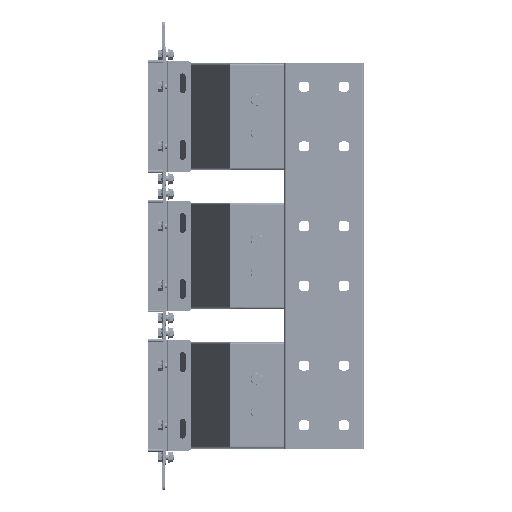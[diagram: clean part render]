
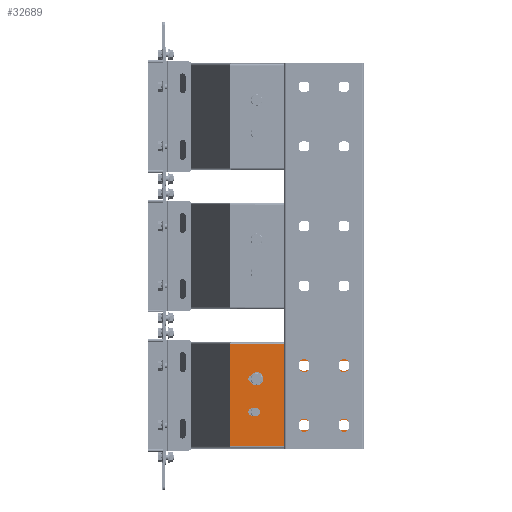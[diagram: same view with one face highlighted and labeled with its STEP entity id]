
A CAD part, front view. The second image highlights one B-rep face of the part: STEP entity #32689.
In plain terms, the highlighted planar face has unit normal (0, -1, 0).
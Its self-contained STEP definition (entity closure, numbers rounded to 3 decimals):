
#32445=AXIS2_PLACEMENT_3D('Circle Axis2P3D',#32443,#32444,$) ;
#32465=AXIS2_PLACEMENT_3D('Plane Axis2P3D',#32462,#32463,#32464) ;
#32503=AXIS2_PLACEMENT_3D('Circle Axis2P3D',#32501,#32502,$) ;
#32521=AXIS2_PLACEMENT_3D('Circle Axis2P3D',#32519,#32520,$) ;
#32537=AXIS2_PLACEMENT_3D('Circle Axis2P3D',#32535,#32536,$) ;
#32555=AXIS2_PLACEMENT_3D('Circle Axis2P3D',#32553,#32554,$) ;
#32571=AXIS2_PLACEMENT_3D('Circle Axis2P3D',#32569,#32570,$) ;
#32598=AXIS2_PLACEMENT_3D('Circle Axis2P3D',#32596,#32597,$) ;
#32612=AXIS2_PLACEMENT_3D('Circle Axis2P3D',#32610,#32611,$) ;
#32623=AXIS2_PLACEMENT_3D('Circle Axis2P3D',#32621,#32622,$) ;
#32639=AXIS2_PLACEMENT_3D('Circle Axis2P3D',#32637,#32638,$) ;
#32657=AXIS2_PLACEMENT_3D('Circle Axis2P3D',#32655,#32656,$) ;
#32673=AXIS2_PLACEMENT_3D('Circle Axis2P3D',#32671,#32672,$) ;
#32409=CARTESIAN_POINT('Vertex',(212.5,-218.15,52.5)) ;
#32412=CARTESIAN_POINT('Line Origine',(210.,-218.15,52.5)) ;
#32416=CARTESIAN_POINT('Vertex',(207.5,-218.15,52.5)) ;
#32443=CARTESIAN_POINT('Axis2P3D Location',(207.5,-218.15,45.)) ;
#32447=CARTESIAN_POINT('Vertex',(207.5,-218.15,37.5)) ;
#32462=CARTESIAN_POINT('Axis2P3D Location',(300.,-218.15,-76.85)) ;
#32467=CARTESIAN_POINT('Line Origine',(198.973,-218.15,-76.85)) ;
#32471=CARTESIAN_POINT('Vertex',(300.,-218.15,-76.85)) ;
#32473=CARTESIAN_POINT('Vertex',(97.945,-218.15,-76.85)) ;
#32476=CARTESIAN_POINT('Line Origine',(300.,-218.15,0.)) ;
#32480=CARTESIAN_POINT('Vertex',(300.,-218.15,76.85)) ;
#32483=CARTESIAN_POINT('Line Origine',(198.973,-218.15,76.85)) ;
#32487=CARTESIAN_POINT('Vertex',(97.945,-218.15,76.85)) ;
#32490=CARTESIAN_POINT('Line Origine',(97.945,-218.15,0.)) ;
#32501=CARTESIAN_POINT('Axis2P3D Location',(212.5,-218.15,45.)) ;
#32505=CARTESIAN_POINT('Vertex',(212.5,-218.15,37.5)) ;
#32508=CARTESIAN_POINT('Line Origine',(210.,-218.15,37.5)) ;
#32519=CARTESIAN_POINT('Axis2P3D Location',(272.5,-218.15,45.)) ;
#32523=CARTESIAN_POINT('Vertex',(272.5,-218.15,37.5)) ;
#32525=CARTESIAN_POINT('Vertex',(272.5,-218.15,52.5)) ;
#32528=CARTESIAN_POINT('Line Origine',(270.,-218.15,37.5)) ;
#32532=CARTESIAN_POINT('Vertex',(267.5,-218.15,37.5)) ;
#32535=CARTESIAN_POINT('Axis2P3D Location',(267.5,-218.15,45.)) ;
#32539=CARTESIAN_POINT('Vertex',(267.5,-218.15,52.5)) ;
#32542=CARTESIAN_POINT('Line Origine',(270.,-218.15,52.5)) ;
#32553=CARTESIAN_POINT('Axis2P3D Location',(207.5,-218.15,-45.)) ;
#32557=CARTESIAN_POINT('Vertex',(207.5,-218.15,-37.5)) ;
#32559=CARTESIAN_POINT('Vertex',(207.5,-218.15,-52.5)) ;
#32562=CARTESIAN_POINT('Line Origine',(210.,-218.15,-37.5)) ;
#32566=CARTESIAN_POINT('Vertex',(212.5,-218.15,-37.5)) ;
#32569=CARTESIAN_POINT('Axis2P3D Location',(212.5,-218.15,-45.)) ;
#32573=CARTESIAN_POINT('Vertex',(212.5,-218.15,-52.5)) ;
#32576=CARTESIAN_POINT('Line Origine',(210.,-218.15,-52.5)) ;
#32587=CARTESIAN_POINT('Line Origine',(270.,-218.15,-37.5)) ;
#32591=CARTESIAN_POINT('Vertex',(272.5,-218.15,-37.5)) ;
#32593=CARTESIAN_POINT('Vertex',(267.5,-218.15,-37.5)) ;
#32596=CARTESIAN_POINT('Axis2P3D Location',(272.5,-218.15,-45.)) ;
#32600=CARTESIAN_POINT('Vertex',(272.5,-218.15,-52.5)) ;
#32603=CARTESIAN_POINT('Line Origine',(270.,-218.15,-52.5)) ;
#32607=CARTESIAN_POINT('Vertex',(267.5,-218.15,-52.5)) ;
#32610=CARTESIAN_POINT('Axis2P3D Location',(267.5,-218.15,-45.)) ;
#32621=CARTESIAN_POINT('Axis2P3D Location',(138.5,-218.15,25.)) ;
#32625=CARTESIAN_POINT('Vertex',(138.5,-218.15,19.5)) ;
#32627=CARTESIAN_POINT('Vertex',(138.5,-218.15,30.5)) ;
#32630=CARTESIAN_POINT('Line Origine',(135.,-218.15,19.5)) ;
#32634=CARTESIAN_POINT('Vertex',(131.5,-218.15,19.5)) ;
#32637=CARTESIAN_POINT('Axis2P3D Location',(131.5,-218.15,25.)) ;
#32641=CARTESIAN_POINT('Vertex',(131.5,-218.15,30.5)) ;
#32644=CARTESIAN_POINT('Line Origine',(135.,-218.15,30.5)) ;
#32655=CARTESIAN_POINT('Axis2P3D Location',(131.5,-218.15,-25.)) ;
#32659=CARTESIAN_POINT('Vertex',(131.5,-218.15,-19.5)) ;
#32661=CARTESIAN_POINT('Vertex',(131.5,-218.15,-30.5)) ;
#32664=CARTESIAN_POINT('Line Origine',(135.,-218.15,-19.5)) ;
#32668=CARTESIAN_POINT('Vertex',(138.5,-218.15,-19.5)) ;
#32671=CARTESIAN_POINT('Axis2P3D Location',(138.5,-218.15,-25.)) ;
#32675=CARTESIAN_POINT('Vertex',(138.5,-218.15,-30.5)) ;
#32678=CARTESIAN_POINT('Line Origine',(135.,-218.15,-30.5)) ;
#32413=DIRECTION('Vector Direction',(1.,0.,0.)) ;
#32444=DIRECTION('Axis2P3D Direction',(0.,-1.,0.)) ;
#32463=DIRECTION('Axis2P3D Direction',(0.,-1.,0.)) ;
#32464=DIRECTION('Axis2P3D XDirection',(0.,0.,1.)) ;
#32468=DIRECTION('Vector Direction',(-1.,0.,0.)) ;
#32477=DIRECTION('Vector Direction',(0.,0.,1.)) ;
#32484=DIRECTION('Vector Direction',(-1.,0.,0.)) ;
#32491=DIRECTION('Vector Direction',(0.,0.,1.)) ;
#32502=DIRECTION('Axis2P3D Direction',(0.,-1.,0.)) ;
#32509=DIRECTION('Vector Direction',(-1.,0.,0.)) ;
#32520=DIRECTION('Axis2P3D Direction',(0.,-1.,0.)) ;
#32529=DIRECTION('Vector Direction',(1.,0.,0.)) ;
#32536=DIRECTION('Axis2P3D Direction',(0.,-1.,0.)) ;
#32543=DIRECTION('Vector Direction',(-1.,0.,0.)) ;
#32554=DIRECTION('Axis2P3D Direction',(0.,-1.,0.)) ;
#32563=DIRECTION('Vector Direction',(-1.,0.,0.)) ;
#32570=DIRECTION('Axis2P3D Direction',(0.,-1.,0.)) ;
#32577=DIRECTION('Vector Direction',(1.,0.,0.)) ;
#32588=DIRECTION('Vector Direction',(1.,0.,0.)) ;
#32597=DIRECTION('Axis2P3D Direction',(0.,-1.,0.)) ;
#32604=DIRECTION('Vector Direction',(-1.,0.,0.)) ;
#32611=DIRECTION('Axis2P3D Direction',(0.,-1.,0.)) ;
#32622=DIRECTION('Axis2P3D Direction',(0.,-1.,0.)) ;
#32631=DIRECTION('Vector Direction',(-1.,0.,0.)) ;
#32638=DIRECTION('Axis2P3D Direction',(0.,-1.,0.)) ;
#32645=DIRECTION('Vector Direction',(1.,0.,0.)) ;
#32656=DIRECTION('Axis2P3D Direction',(0.,-1.,0.)) ;
#32665=DIRECTION('Vector Direction',(-1.,0.,0.)) ;
#32672=DIRECTION('Axis2P3D Direction',(0.,-1.,0.)) ;
#32679=DIRECTION('Vector Direction',(1.,0.,0.)) ;
#32414=VECTOR('Line Direction',#32413,1.) ;
#32469=VECTOR('Line Direction',#32468,1.) ;
#32478=VECTOR('Line Direction',#32477,1.) ;
#32485=VECTOR('Line Direction',#32484,1.) ;
#32492=VECTOR('Line Direction',#32491,1.) ;
#32510=VECTOR('Line Direction',#32509,1.) ;
#32530=VECTOR('Line Direction',#32529,1.) ;
#32544=VECTOR('Line Direction',#32543,1.) ;
#32564=VECTOR('Line Direction',#32563,1.) ;
#32578=VECTOR('Line Direction',#32577,1.) ;
#32589=VECTOR('Line Direction',#32588,1.) ;
#32605=VECTOR('Line Direction',#32604,1.) ;
#32632=VECTOR('Line Direction',#32631,1.) ;
#32646=VECTOR('Line Direction',#32645,1.) ;
#32666=VECTOR('Line Direction',#32665,1.) ;
#32680=VECTOR('Line Direction',#32679,1.) ;
#32496=ORIENTED_EDGE('',*,*,#32475,.F.) ;
#32497=ORIENTED_EDGE('',*,*,#32482,.F.) ;
#32498=ORIENTED_EDGE('',*,*,#32489,.T.) ;
#32499=ORIENTED_EDGE('',*,*,#32494,.F.) ;
#32514=ORIENTED_EDGE('',*,*,#32507,.F.) ;
#32515=ORIENTED_EDGE('',*,*,#32512,.F.) ;
#32516=ORIENTED_EDGE('',*,*,#32449,.F.) ;
#32517=ORIENTED_EDGE('',*,*,#32418,.F.) ;
#32548=ORIENTED_EDGE('',*,*,#32527,.F.) ;
#32549=ORIENTED_EDGE('',*,*,#32534,.F.) ;
#32550=ORIENTED_EDGE('',*,*,#32541,.F.) ;
#32551=ORIENTED_EDGE('',*,*,#32546,.F.) ;
#32582=ORIENTED_EDGE('',*,*,#32561,.F.) ;
#32583=ORIENTED_EDGE('',*,*,#32568,.F.) ;
#32584=ORIENTED_EDGE('',*,*,#32575,.F.) ;
#32585=ORIENTED_EDGE('',*,*,#32580,.F.) ;
#32616=ORIENTED_EDGE('',*,*,#32595,.F.) ;
#32617=ORIENTED_EDGE('',*,*,#32602,.F.) ;
#32618=ORIENTED_EDGE('',*,*,#32609,.F.) ;
#32619=ORIENTED_EDGE('',*,*,#32614,.F.) ;
#32650=ORIENTED_EDGE('',*,*,#32629,.F.) ;
#32651=ORIENTED_EDGE('',*,*,#32636,.F.) ;
#32652=ORIENTED_EDGE('',*,*,#32643,.F.) ;
#32653=ORIENTED_EDGE('',*,*,#32648,.F.) ;
#32684=ORIENTED_EDGE('',*,*,#32663,.F.) ;
#32685=ORIENTED_EDGE('',*,*,#32670,.F.) ;
#32686=ORIENTED_EDGE('',*,*,#32677,.F.) ;
#32687=ORIENTED_EDGE('',*,*,#32682,.F.) ;
#32518=FACE_BOUND('',#32513,.T.) ;
#32552=FACE_BOUND('',#32547,.T.) ;
#32586=FACE_BOUND('',#32581,.T.) ;
#32620=FACE_BOUND('',#32615,.T.) ;
#32654=FACE_BOUND('',#32649,.T.) ;
#32688=FACE_BOUND('',#32683,.T.) ;
#32689=ADVANCED_FACE('N',(#32500,#32518,#32552,#32586,#32620,#32654,#32688),#32466,.T.) ;
#32446=CIRCLE('generated circle',#32445,7.5) ;
#32504=CIRCLE('generated circle',#32503,7.5) ;
#32522=CIRCLE('generated circle',#32521,7.5) ;
#32538=CIRCLE('generated circle',#32537,7.5) ;
#32556=CIRCLE('generated circle',#32555,7.5) ;
#32572=CIRCLE('generated circle',#32571,7.5) ;
#32599=CIRCLE('generated circle',#32598,7.5) ;
#32613=CIRCLE('generated circle',#32612,7.5) ;
#32624=CIRCLE('generated circle',#32623,5.5) ;
#32640=CIRCLE('generated circle',#32639,5.5) ;
#32658=CIRCLE('generated circle',#32657,5.5) ;
#32674=CIRCLE('generated circle',#32673,5.5) ;
#32418=EDGE_CURVE('',#32410,#32417,#32415,.F.) ;
#32449=EDGE_CURVE('',#32417,#32448,#32446,.T.) ;
#32475=EDGE_CURVE('',#32472,#32474,#32470,.T.) ;
#32482=EDGE_CURVE('',#32481,#32472,#32479,.F.) ;
#32489=EDGE_CURVE('',#32481,#32488,#32486,.T.) ;
#32494=EDGE_CURVE('',#32474,#32488,#32493,.T.) ;
#32507=EDGE_CURVE('',#32506,#32410,#32504,.T.) ;
#32512=EDGE_CURVE('',#32448,#32506,#32511,.F.) ;
#32527=EDGE_CURVE('',#32524,#32526,#32522,.T.) ;
#32534=EDGE_CURVE('',#32533,#32524,#32531,.T.) ;
#32541=EDGE_CURVE('',#32540,#32533,#32538,.T.) ;
#32546=EDGE_CURVE('',#32526,#32540,#32545,.T.) ;
#32561=EDGE_CURVE('',#32558,#32560,#32556,.T.) ;
#32568=EDGE_CURVE('',#32567,#32558,#32565,.T.) ;
#32575=EDGE_CURVE('',#32574,#32567,#32572,.T.) ;
#32580=EDGE_CURVE('',#32560,#32574,#32579,.T.) ;
#32595=EDGE_CURVE('',#32592,#32594,#32590,.F.) ;
#32602=EDGE_CURVE('',#32601,#32592,#32599,.T.) ;
#32609=EDGE_CURVE('',#32608,#32601,#32606,.F.) ;
#32614=EDGE_CURVE('',#32594,#32608,#32613,.T.) ;
#32629=EDGE_CURVE('',#32626,#32628,#32624,.T.) ;
#32636=EDGE_CURVE('',#32635,#32626,#32633,.F.) ;
#32643=EDGE_CURVE('',#32642,#32635,#32640,.T.) ;
#32648=EDGE_CURVE('',#32628,#32642,#32647,.F.) ;
#32663=EDGE_CURVE('',#32660,#32662,#32658,.T.) ;
#32670=EDGE_CURVE('',#32669,#32660,#32667,.T.) ;
#32677=EDGE_CURVE('',#32676,#32669,#32674,.T.) ;
#32682=EDGE_CURVE('',#32662,#32676,#32681,.T.) ;
#32495=EDGE_LOOP('',(#32496,#32497,#32498,#32499)) ;
#32513=EDGE_LOOP('',(#32514,#32515,#32516,#32517)) ;
#32547=EDGE_LOOP('',(#32548,#32549,#32550,#32551)) ;
#32581=EDGE_LOOP('',(#32582,#32583,#32584,#32585)) ;
#32615=EDGE_LOOP('',(#32616,#32617,#32618,#32619)) ;
#32649=EDGE_LOOP('',(#32650,#32651,#32652,#32653)) ;
#32683=EDGE_LOOP('',(#32684,#32685,#32686,#32687)) ;
#32500=FACE_OUTER_BOUND('',#32495,.T.) ;
#32415=LINE('Line',#32412,#32414) ;
#32470=LINE('Line',#32467,#32469) ;
#32479=LINE('Line',#32476,#32478) ;
#32486=LINE('Line',#32483,#32485) ;
#32493=LINE('Line',#32490,#32492) ;
#32511=LINE('Line',#32508,#32510) ;
#32531=LINE('Line',#32528,#32530) ;
#32545=LINE('Line',#32542,#32544) ;
#32565=LINE('Line',#32562,#32564) ;
#32579=LINE('Line',#32576,#32578) ;
#32590=LINE('Line',#32587,#32589) ;
#32606=LINE('Line',#32603,#32605) ;
#32633=LINE('Line',#32630,#32632) ;
#32647=LINE('Line',#32644,#32646) ;
#32667=LINE('Line',#32664,#32666) ;
#32681=LINE('Line',#32678,#32680) ;
#32466=PLANE('',#32465) ;
#32410=VERTEX_POINT('',#32409) ;
#32417=VERTEX_POINT('',#32416) ;
#32448=VERTEX_POINT('',#32447) ;
#32472=VERTEX_POINT('',#32471) ;
#32474=VERTEX_POINT('',#32473) ;
#32481=VERTEX_POINT('',#32480) ;
#32488=VERTEX_POINT('',#32487) ;
#32506=VERTEX_POINT('',#32505) ;
#32524=VERTEX_POINT('',#32523) ;
#32526=VERTEX_POINT('',#32525) ;
#32533=VERTEX_POINT('',#32532) ;
#32540=VERTEX_POINT('',#32539) ;
#32558=VERTEX_POINT('',#32557) ;
#32560=VERTEX_POINT('',#32559) ;
#32567=VERTEX_POINT('',#32566) ;
#32574=VERTEX_POINT('',#32573) ;
#32592=VERTEX_POINT('',#32591) ;
#32594=VERTEX_POINT('',#32593) ;
#32601=VERTEX_POINT('',#32600) ;
#32608=VERTEX_POINT('',#32607) ;
#32626=VERTEX_POINT('',#32625) ;
#32628=VERTEX_POINT('',#32627) ;
#32635=VERTEX_POINT('',#32634) ;
#32642=VERTEX_POINT('',#32641) ;
#32660=VERTEX_POINT('',#32659) ;
#32662=VERTEX_POINT('',#32661) ;
#32669=VERTEX_POINT('',#32668) ;
#32676=VERTEX_POINT('',#32675) ;
